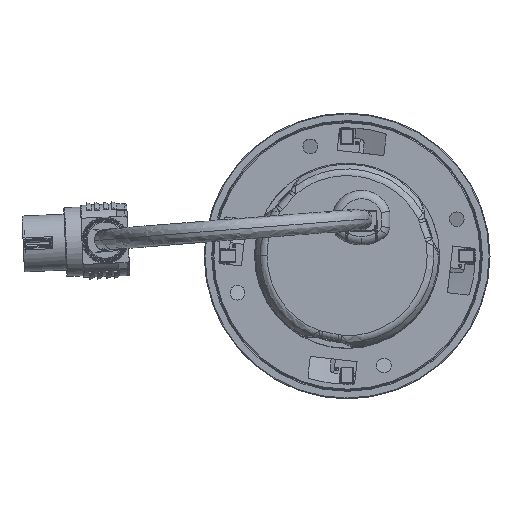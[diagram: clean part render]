
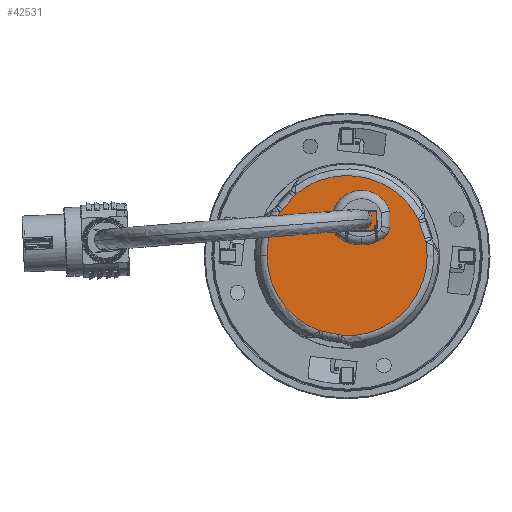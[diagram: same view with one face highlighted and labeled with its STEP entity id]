
A CAD part, top view. The second image highlights one B-rep face of the part: STEP entity #42531.
In plain terms, the highlighted planar face has unit normal (0, 0, 1).
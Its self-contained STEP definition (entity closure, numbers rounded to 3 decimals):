
#1356 = DIRECTION ( 'NONE',  ( 0., 0., -1. ) ) ;
#1478 = VERTEX_POINT ( 'NONE', #32618 ) ;
#1898 = CARTESIAN_POINT ( 'NONE',  ( 17.549, -36.219, 47.133 ) ) ;
#2005 = CARTESIAN_POINT ( 'NONE',  ( 22.234, -37.248, 47.133 ) ) ;
#2129 = VERTEX_POINT ( 'NONE', #25087 ) ;
#2265 = VERTEX_POINT ( 'NONE', #23845 ) ;
#2371 = VERTEX_POINT ( 'NONE', #22541 ) ;
#2799 = CARTESIAN_POINT ( 'NONE',  ( 42.131, -14.995, 47.133 ) ) ;
#2864 = CARTESIAN_POINT ( 'NONE',  ( 40.587, -10.454, 47.133 ) ) ;
#2915 = CARTESIAN_POINT ( 'NONE',  ( 41.836, -14.254, 47.133 ) ) ;
#3659 = VERTEX_POINT ( 'NONE', #19454 ) ;
#4411 = VERTEX_POINT ( 'NONE', #5397 ) ;
#4593 = VERTEX_POINT ( 'NONE', #2799 ) ;
#4649 = VERTEX_POINT ( 'NONE', #2005 ) ;
#4901 = DIRECTION ( 'NONE',  ( 0., 0., -1. ) ) ;
#5242 = DIRECTION ( 'NONE',  ( -1., 0., 0. ) ) ;
#5299 = DIRECTION ( 'NONE',  ( 0., 0., -1. ) ) ;
#5306 = CARTESIAN_POINT ( 'NONE',  ( 16.22, -42.581, 47.133 ) ) ;
#5397 = CARTESIAN_POINT ( 'NONE',  ( 7.437, -7.746, 47.133 ) ) ;
#6699 = VERTEX_POINT ( 'NONE', #1898 ) ;
#6733 = VERTEX_POINT ( 'NONE', #15780 ) ;
#7801 = CIRCLE ( 'NONE', #13905, 19.055 ) ;
#7804 = VERTEX_POINT ( 'NONE', #33466 ) ;
#10064 = ORIENTED_EDGE ( 'NONE', *, *, #17966, .F. ) ;
#10326 = CARTESIAN_POINT ( 'NONE',  ( 9.337, -5.694, 47.133 ) ) ;
#10340 = ORIENTED_EDGE ( 'NONE', *, *, #17049, .T. ) ;
#10472 = DIRECTION ( 'NONE',  ( 0., 0., -1. ) ) ;
#11072 = DIRECTION ( 'NONE',  ( 0., 0., -1. ) ) ;
#11129 = CARTESIAN_POINT ( 'NONE',  ( -3.097, -4.856, 47.133 ) ) ;
#11191 = ORIENTED_EDGE ( 'NONE', *, *, #18169, .F. ) ;
#11382 = DIRECTION ( 'NONE',  ( 0., 0., 1. ) ) ;
#11466 = ORIENTED_EDGE ( 'NONE', *, *, #21610, .T. ) ;
#11586 = DIRECTION ( 'NONE',  ( -1., 0., 0. ) ) ;
#11641 = DIRECTION ( 'NONE',  ( 0., 0., -1. ) ) ;
#11647 = CARTESIAN_POINT ( 'NONE',  ( 46.762, -8.424, 47.133 ) ) ;
#11695 = VERTEX_POINT ( 'NONE', #2915 ) ;
#11701 = VERTEX_POINT ( 'NONE', #2864 ) ;
#12001 = AXIS2_PLACEMENT_3D ( 'NONE', #33058, #11382, #36750 ) ;
#12549 = ORIENTED_EDGE ( 'NONE', *, *, #18160, .F. ) ;
#12795 = ORIENTED_EDGE ( 'NONE', *, *, #21008, .T. ) ;
#12962 = CARTESIAN_POINT ( 'NONE',  ( 41.211, -12.354, 47.133 ) ) ;
#13207 = DIRECTION ( 'NONE',  ( 0., 0., -1. ) ) ;
#13480 = LINE ( 'NONE', #39847, #32769 ) ;
#13503 = CIRCLE ( 'NONE', #25972, 19.055 ) ;
#13676 = ORIENTED_EDGE ( 'NONE', *, *, #17689, .F. ) ;
#13889 = DIRECTION ( 'NONE',  ( 0.667, 0.745, 0. ) ) ;
#13905 = AXIS2_PLACEMENT_3D ( 'NONE', #34928, #13207, #38656 ) ;
#14099 = DIRECTION ( 'NONE',  ( 0., 0., -1. ) ) ;
#14620 = LINE ( 'NONE', #10326, #39491 ) ;
#14877 = CIRCLE ( 'NONE', #44069, 6.5 ) ;
#15754 = AXIS2_PLACEMENT_3D ( 'NONE', #35858, #14099, #39584 ) ;
#15780 = CARTESIAN_POINT ( 'NONE',  ( 16.76, -36.104, 47.133 ) ) ;
#15820 = EDGE_CURVE ( 'NONE', #6733, #6699, #14877, .T. ) ;
#15899 = AXIS2_PLACEMENT_3D ( 'NONE', #11647, #11641, #11586 ) ;
#16423 = EDGE_CURVE ( 'NONE', #2371, #4649, #44911, .T. ) ;
#17049 = EDGE_CURVE ( 'NONE', #11701, #3659, #42946, .T. ) ;
#17545 = ORIENTED_EDGE ( 'NONE', *, *, #30744, .F. ) ;
#17686 = ORIENTED_EDGE ( 'NONE', *, *, #15820, .T. ) ;
#17689 = EDGE_CURVE ( 'NONE', #7804, #4411, #13503, .T. ) ;
#17966 = EDGE_CURVE ( 'NONE', #11701, #11695, #40260, .T. ) ;
#18160 = EDGE_CURVE ( 'NONE', #2129, #1478, #14620, .T. ) ;
#18169 = EDGE_CURVE ( 'NONE', #2265, #3659, #39580, .T. ) ;
#18345 = DIRECTION ( 'NONE',  ( 0.312, -0.95, 0. ) ) ;
#18542 = CIRCLE ( 'NONE', #15754, 6.5 ) ;
#19447 = ORIENTED_EDGE ( 'NONE', *, *, #19905, .F. ) ;
#19454 = CARTESIAN_POINT ( 'NONE',  ( 40.385, -9.682, 47.133 ) ) ;
#19623 = ORIENTED_EDGE ( 'NONE', *, *, #16423, .T. ) ;
#19846 = AXIS2_PLACEMENT_3D ( 'NONE', #32750, #11072, #36432 ) ;
#19905 = EDGE_CURVE ( 'NONE', #2371, #6699, #13480, .T. ) ;
#19958 = EDGE_CURVE ( 'NONE', #11695, #4593, #31625, .T. ) ;
#20022 = EDGE_CURVE ( 'NONE', #4593, #4649, #25305, .T. ) ;
#20360 = DIRECTION ( 'NONE',  ( 0.312, -0.95, 0. ) ) ;
#20667 = ORIENTED_EDGE ( 'NONE', *, *, #20022, .F. ) ;
#20804 = ORIENTED_EDGE ( 'NONE', *, *, #19958, .F. ) ;
#21008 = EDGE_CURVE ( 'NONE', #2129, #4411, #43693, .T. ) ;
#21610 = EDGE_CURVE ( 'NONE', #2265, #1478, #18542, .T. ) ;
#22521 = CARTESIAN_POINT ( 'NONE',  ( 23.352, -18.225, 47.133 ) ) ;
#22541 = CARTESIAN_POINT ( 'NONE',  ( 21.464, -37.037, 47.133 ) ) ;
#22825 = FACE_OUTER_BOUND ( 'NONE', #32753, .T. ) ;
#23845 = CARTESIAN_POINT ( 'NONE',  ( 11.164, -3.577, 47.133 ) ) ;
#25087 = CARTESIAN_POINT ( 'NONE',  ( 8.004, -7.185, 47.133 ) ) ;
#25142 = AXIS2_PLACEMENT_3D ( 'NONE', #11129, #32821, #18345 ) ;
#25305 = CIRCLE ( 'NONE', #33278, 19.055 ) ;
#25972 = AXIS2_PLACEMENT_3D ( 'NONE', #26206, #4901, #29904 ) ;
#26158 = DIRECTION ( 'NONE',  ( -1., 0., 0. ) ) ;
#26206 = CARTESIAN_POINT ( 'NONE',  ( 23.352, -18.225, 47.133 ) ) ;
#28700 = DIRECTION ( 'NONE',  ( 0., 1., 0. ) ) ;
#28704 = DIRECTION ( 'NONE',  ( 0., 0., -1. ) ) ;
#28763 = CARTESIAN_POINT ( 'NONE',  ( 20.135, -43.4, 47.133 ) ) ;
#29904 = DIRECTION ( 'NONE',  ( -1., 0., 0. ) ) ;
#30744 = EDGE_CURVE ( 'NONE', #6733, #7804, #7801, .T. ) ;
#31625 = CIRCLE ( 'NONE', #12001, 6.5 ) ;
#32121 = CARTESIAN_POINT ( 'NONE',  ( 23.352, -18.225, 47.133 ) ) ;
#32618 = CARTESIAN_POINT ( 'NONE',  ( 10.67, -4.203, 47.133 ) ) ;
#32750 = CARTESIAN_POINT ( 'NONE',  ( 3.159, -2.852, 47.133 ) ) ;
#32753 = EDGE_LOOP ( 'NONE', ( #10064, #10340, #11191, #11466, #12549, #12795, #13676, #17545, #17686, #19447, #19623, #20667, #20804 ) ) ;
#32769 = VECTOR ( 'NONE', #43576, 1000. ) ;
#32821 = DIRECTION ( 'NONE',  ( 0., 0., 1. ) ) ;
#33058 = CARTESIAN_POINT ( 'NONE',  ( 48.011, -12.224, 47.133 ) ) ;
#33069 = AXIS2_PLACEMENT_3D ( 'NONE', #32121, #10472, #35787 ) ;
#33278 = AXIS2_PLACEMENT_3D ( 'NONE', #22521, #1356, #26158 ) ;
#33466 = CARTESIAN_POINT ( 'NONE',  ( 4.297, -18.225, 47.133 ) ) ;
#34928 = CARTESIAN_POINT ( 'NONE',  ( 23.352, -18.225, 47.133 ) ) ;
#35787 = DIRECTION ( 'NONE',  ( -1., 0., 0. ) ) ;
#35858 = CARTESIAN_POINT ( 'NONE',  ( 5.825, 0.129, 47.133 ) ) ;
#36432 = DIRECTION ( 'NONE',  ( 0., 1., 0. ) ) ;
#36750 = DIRECTION ( 'NONE',  ( -1., 0., 0. ) ) ;
#38656 = DIRECTION ( 'NONE',  ( -1., 0., 0. ) ) ;
#39491 = VECTOR ( 'NONE', #13889, 1000. ) ;
#39580 = CIRCLE ( 'NONE', #33069, 19.055 ) ;
#39584 = DIRECTION ( 'NONE',  ( -1., 0., 0. ) ) ;
#39847 = CARTESIAN_POINT ( 'NONE',  ( 19.507, -36.628, 47.133 ) ) ;
#40052 = VECTOR ( 'NONE', #20360, 1000. ) ;
#40241 = PLANE ( 'NONE',  #25142 ) ;
#40260 = LINE ( 'NONE', #12962, #40052 ) ;
#42531 = ADVANCED_FACE ( 'NONE', ( #22825 ), #40241, .T. ) ;
#42946 = CIRCLE ( 'NONE', #15899, 6.5 ) ;
#43576 = DIRECTION ( 'NONE',  ( -0.979, 0.205, 0. ) ) ;
#43693 = CIRCLE ( 'NONE', #19846, 6.5 ) ;
#44069 = AXIS2_PLACEMENT_3D ( 'NONE', #5306, #5299, #5242 ) ;
#44911 = CIRCLE ( 'NONE', #45430, 6.5 ) ;
#45430 = AXIS2_PLACEMENT_3D ( 'NONE', #28763, #28704, #28700 ) ;
